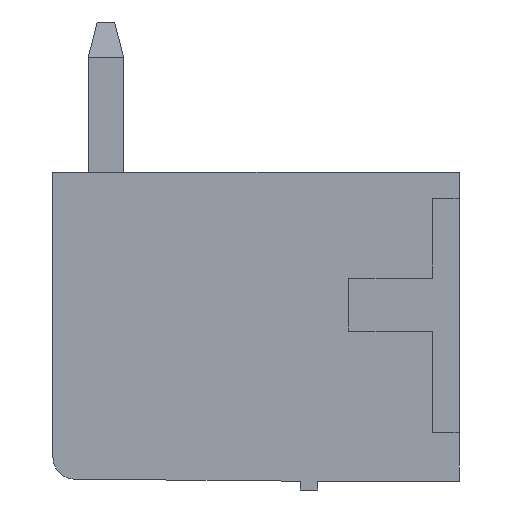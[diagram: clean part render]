
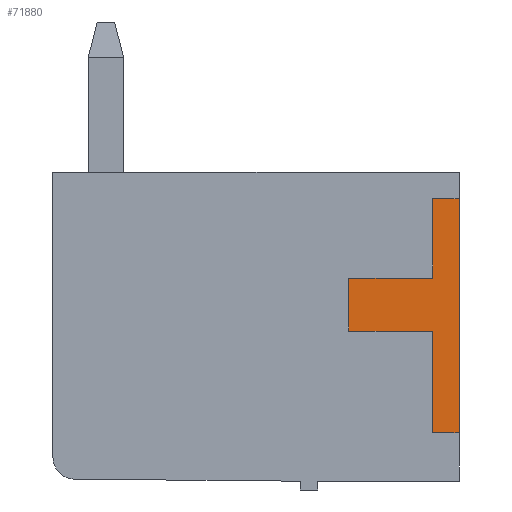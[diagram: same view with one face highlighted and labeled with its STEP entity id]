
A CAD part, left-side view. The second image highlights one B-rep face of the part: STEP entity #71880.
In plain terms, the highlighted planar face has unit normal (-1, 0, 0).
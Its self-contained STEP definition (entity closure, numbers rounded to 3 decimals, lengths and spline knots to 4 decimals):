
#128 = PLANE('',#129);
#129 = AXIS2_PLACEMENT_3D('',#130,#131,#132);
#130 = CARTESIAN_POINT('',(0.,0.,7.));
#131 = DIRECTION('',(0.,-1.,0.));
#132 = DIRECTION('',(0.,0.,-1.));
#1137 = VERTEX_POINT('',#1138);
#1138 = CARTESIAN_POINT('',(-0.2,0.,1.1));
#1152 = PLANE('',#1153);
#1153 = AXIS2_PLACEMENT_3D('',#1154,#1155,#1156);
#1154 = CARTESIAN_POINT('',(0.,0.6,1.1));
#1155 = DIRECTION('',(0.,0.,-1.));
#1156 = DIRECTION('',(0.,-1.,0.));
#1164 = EDGE_CURVE('',#1137,#1165,#1167,.T.);
#1165 = VERTEX_POINT('',#1166);
#1166 = CARTESIAN_POINT('',(-0.2,0.,6.4));
#1167 = SURFACE_CURVE('',#1168,(#1172,#1179),.PCURVE_S1.);
#1168 = LINE('',#1169,#1170);
#1169 = CARTESIAN_POINT('',(-0.2,0.,1.1));
#1170 = VECTOR('',#1171,1.);
#1171 = DIRECTION('',(0.,0.,1.));
#1172 = PCURVE('',#128,#1173);
#1173 = DEFINITIONAL_REPRESENTATION('',(#1174),#1178);
#1174 = LINE('',#1175,#1176);
#1175 = CARTESIAN_POINT('',(5.9,-0.2));
#1176 = VECTOR('',#1177,1.);
#1177 = DIRECTION('',(-1.,0.));
#1178 = ( GEOMETRIC_REPRESENTATION_CONTEXT(2) 
PARAMETRIC_REPRESENTATION_CONTEXT() REPRESENTATION_CONTEXT('2D SPACE',''
  ) );
#1179 = PCURVE('',#1180,#1185);
#1180 = PLANE('',#1181);
#1181 = AXIS2_PLACEMENT_3D('',#1182,#1183,#1184);
#1182 = CARTESIAN_POINT('',(-0.2,0.,0.));
#1183 = DIRECTION('',(-1.,0.,0.));
#1184 = DIRECTION('',(0.,0.,1.));
#1185 = DEFINITIONAL_REPRESENTATION('',(#1186),#1190);
#1186 = LINE('',#1187,#1188);
#1187 = CARTESIAN_POINT('',(1.1,0.));
#1188 = VECTOR('',#1189,1.);
#1189 = DIRECTION('',(1.,0.));
#1190 = ( GEOMETRIC_REPRESENTATION_CONTEXT(2) 
PARAMETRIC_REPRESENTATION_CONTEXT() REPRESENTATION_CONTEXT('2D SPACE',''
  ) );
#1208 = PLANE('',#1209);
#1209 = AXIS2_PLACEMENT_3D('',#1210,#1211,#1212);
#1210 = CARTESIAN_POINT('',(0.,0.,6.4));
#1211 = DIRECTION('',(0.,0.,1.));
#1212 = DIRECTION('',(0.,1.,0.));
#19921 = PLANE('',#19922);
#19922 = AXIS2_PLACEMENT_3D('',#19923,#19924,#19925);
#19923 = CARTESIAN_POINT('',(0.,0.6,6.4));
#19924 = DIRECTION('',(0.,1.,0.));
#19925 = DIRECTION('',(0.,0.,-1.));
#19949 = PLANE('',#19950);
#19950 = AXIS2_PLACEMENT_3D('',#19951,#19952,#19953);
#19951 = CARTESIAN_POINT('',(0.,0.6,4.6));
#19952 = DIRECTION('',(0.,0.,1.));
#19953 = DIRECTION('',(0.,1.,0.));
#19977 = PLANE('',#19978);
#19978 = AXIS2_PLACEMENT_3D('',#19979,#19980,#19981);
#19979 = CARTESIAN_POINT('',(0.,2.5,4.6));
#19980 = DIRECTION('',(0.,1.,0.));
#19981 = DIRECTION('',(0.,0.,-1.));
#20005 = PLANE('',#20006);
#20006 = AXIS2_PLACEMENT_3D('',#20007,#20008,#20009);
#20007 = CARTESIAN_POINT('',(0.,2.5,3.4));
#20008 = DIRECTION('',(0.,0.,-1.));
#20009 = DIRECTION('',(0.,-1.,0.));
#20033 = PLANE('',#20034);
#20034 = AXIS2_PLACEMENT_3D('',#20035,#20036,#20037);
#20035 = CARTESIAN_POINT('',(0.,0.6,3.4));
#20036 = DIRECTION('',(0.,1.,0.));
#20037 = DIRECTION('',(0.,0.,-1.));
#71837 = EDGE_CURVE('',#1165,#71838,#71840,.T.);
#71838 = VERTEX_POINT('',#71839);
#71839 = CARTESIAN_POINT('',(-0.2,0.6,6.4));
#71840 = SURFACE_CURVE('',#71841,(#71845,#71852),.PCURVE_S1.);
#71841 = LINE('',#71842,#71843);
#71842 = CARTESIAN_POINT('',(-0.2,0.,6.4));
#71843 = VECTOR('',#71844,1.);
#71844 = DIRECTION('',(0.,1.,0.));
#71845 = PCURVE('',#1208,#71846);
#71846 = DEFINITIONAL_REPRESENTATION('',(#71847),#71851);
#71847 = LINE('',#71848,#71849);
#71848 = CARTESIAN_POINT('',(0.,0.2));
#71849 = VECTOR('',#71850,1.);
#71850 = DIRECTION('',(1.,0.));
#71851 = ( GEOMETRIC_REPRESENTATION_CONTEXT(2) 
PARAMETRIC_REPRESENTATION_CONTEXT() REPRESENTATION_CONTEXT('2D SPACE',''
  ) );
#71852 = PCURVE('',#1180,#71853);
#71853 = DEFINITIONAL_REPRESENTATION('',(#71854),#71858);
#71854 = LINE('',#71855,#71856);
#71855 = CARTESIAN_POINT('',(6.4,0.));
#71856 = VECTOR('',#71857,1.);
#71857 = DIRECTION('',(0.,1.));
#71858 = ( GEOMETRIC_REPRESENTATION_CONTEXT(2) 
PARAMETRIC_REPRESENTATION_CONTEXT() REPRESENTATION_CONTEXT('2D SPACE',''
  ) );
#71880 = ADVANCED_FACE('',(#71881),#1180,.T.);
#71881 = FACE_BOUND('',#71882,.F.);
#71882 = EDGE_LOOP('',(#71883,#71884,#71885,#71908,#71931,#71954,#71977,
    #72000));
#71883 = ORIENTED_EDGE('',*,*,#71837,.F.);
#71884 = ORIENTED_EDGE('',*,*,#1164,.F.);
#71885 = ORIENTED_EDGE('',*,*,#71886,.F.);
#71886 = EDGE_CURVE('',#71887,#1137,#71889,.T.);
#71887 = VERTEX_POINT('',#71888);
#71888 = CARTESIAN_POINT('',(-0.2,0.6,1.1));
#71889 = SURFACE_CURVE('',#71890,(#71894,#71901),.PCURVE_S1.);
#71890 = LINE('',#71891,#71892);
#71891 = CARTESIAN_POINT('',(-0.2,0.6,1.1));
#71892 = VECTOR('',#71893,1.);
#71893 = DIRECTION('',(0.,-1.,0.));
#71894 = PCURVE('',#1180,#71895);
#71895 = DEFINITIONAL_REPRESENTATION('',(#71896),#71900);
#71896 = LINE('',#71897,#71898);
#71897 = CARTESIAN_POINT('',(1.1,0.6));
#71898 = VECTOR('',#71899,1.);
#71899 = DIRECTION('',(0.,-1.));
#71900 = ( GEOMETRIC_REPRESENTATION_CONTEXT(2) 
PARAMETRIC_REPRESENTATION_CONTEXT() REPRESENTATION_CONTEXT('2D SPACE',''
  ) );
#71901 = PCURVE('',#1152,#71902);
#71902 = DEFINITIONAL_REPRESENTATION('',(#71903),#71907);
#71903 = LINE('',#71904,#71905);
#71904 = CARTESIAN_POINT('',(0.,0.2));
#71905 = VECTOR('',#71906,1.);
#71906 = DIRECTION('',(1.,0.));
#71907 = ( GEOMETRIC_REPRESENTATION_CONTEXT(2) 
PARAMETRIC_REPRESENTATION_CONTEXT() REPRESENTATION_CONTEXT('2D SPACE',''
  ) );
#71908 = ORIENTED_EDGE('',*,*,#71909,.F.);
#71909 = EDGE_CURVE('',#71910,#71887,#71912,.T.);
#71910 = VERTEX_POINT('',#71911);
#71911 = CARTESIAN_POINT('',(-0.2,0.6,3.4));
#71912 = SURFACE_CURVE('',#71913,(#71917,#71924),.PCURVE_S1.);
#71913 = LINE('',#71914,#71915);
#71914 = CARTESIAN_POINT('',(-0.2,0.6,3.4));
#71915 = VECTOR('',#71916,1.);
#71916 = DIRECTION('',(0.,0.,-1.));
#71917 = PCURVE('',#1180,#71918);
#71918 = DEFINITIONAL_REPRESENTATION('',(#71919),#71923);
#71919 = LINE('',#71920,#71921);
#71920 = CARTESIAN_POINT('',(3.4,0.6));
#71921 = VECTOR('',#71922,1.);
#71922 = DIRECTION('',(-1.,0.));
#71923 = ( GEOMETRIC_REPRESENTATION_CONTEXT(2) 
PARAMETRIC_REPRESENTATION_CONTEXT() REPRESENTATION_CONTEXT('2D SPACE',''
  ) );
#71924 = PCURVE('',#20033,#71925);
#71925 = DEFINITIONAL_REPRESENTATION('',(#71926),#71930);
#71926 = LINE('',#71927,#71928);
#71927 = CARTESIAN_POINT('',(0.,0.2));
#71928 = VECTOR('',#71929,1.);
#71929 = DIRECTION('',(1.,0.));
#71930 = ( GEOMETRIC_REPRESENTATION_CONTEXT(2) 
PARAMETRIC_REPRESENTATION_CONTEXT() REPRESENTATION_CONTEXT('2D SPACE',''
  ) );
#71931 = ORIENTED_EDGE('',*,*,#71932,.F.);
#71932 = EDGE_CURVE('',#71933,#71910,#71935,.T.);
#71933 = VERTEX_POINT('',#71934);
#71934 = CARTESIAN_POINT('',(-0.2,2.5,3.4));
#71935 = SURFACE_CURVE('',#71936,(#71940,#71947),.PCURVE_S1.);
#71936 = LINE('',#71937,#71938);
#71937 = CARTESIAN_POINT('',(-0.2,2.5,3.4));
#71938 = VECTOR('',#71939,1.);
#71939 = DIRECTION('',(0.,-1.,0.));
#71940 = PCURVE('',#1180,#71941);
#71941 = DEFINITIONAL_REPRESENTATION('',(#71942),#71946);
#71942 = LINE('',#71943,#71944);
#71943 = CARTESIAN_POINT('',(3.4,2.5));
#71944 = VECTOR('',#71945,1.);
#71945 = DIRECTION('',(0.,-1.));
#71946 = ( GEOMETRIC_REPRESENTATION_CONTEXT(2) 
PARAMETRIC_REPRESENTATION_CONTEXT() REPRESENTATION_CONTEXT('2D SPACE',''
  ) );
#71947 = PCURVE('',#20005,#71948);
#71948 = DEFINITIONAL_REPRESENTATION('',(#71949),#71953);
#71949 = LINE('',#71950,#71951);
#71950 = CARTESIAN_POINT('',(0.,0.2));
#71951 = VECTOR('',#71952,1.);
#71952 = DIRECTION('',(1.,0.));
#71953 = ( GEOMETRIC_REPRESENTATION_CONTEXT(2) 
PARAMETRIC_REPRESENTATION_CONTEXT() REPRESENTATION_CONTEXT('2D SPACE',''
  ) );
#71954 = ORIENTED_EDGE('',*,*,#71955,.F.);
#71955 = EDGE_CURVE('',#71956,#71933,#71958,.T.);
#71956 = VERTEX_POINT('',#71957);
#71957 = CARTESIAN_POINT('',(-0.2,2.5,4.6));
#71958 = SURFACE_CURVE('',#71959,(#71963,#71970),.PCURVE_S1.);
#71959 = LINE('',#71960,#71961);
#71960 = CARTESIAN_POINT('',(-0.2,2.5,4.6));
#71961 = VECTOR('',#71962,1.);
#71962 = DIRECTION('',(0.,0.,-1.));
#71963 = PCURVE('',#1180,#71964);
#71964 = DEFINITIONAL_REPRESENTATION('',(#71965),#71969);
#71965 = LINE('',#71966,#71967);
#71966 = CARTESIAN_POINT('',(4.6,2.5));
#71967 = VECTOR('',#71968,1.);
#71968 = DIRECTION('',(-1.,0.));
#71969 = ( GEOMETRIC_REPRESENTATION_CONTEXT(2) 
PARAMETRIC_REPRESENTATION_CONTEXT() REPRESENTATION_CONTEXT('2D SPACE',''
  ) );
#71970 = PCURVE('',#19977,#71971);
#71971 = DEFINITIONAL_REPRESENTATION('',(#71972),#71976);
#71972 = LINE('',#71973,#71974);
#71973 = CARTESIAN_POINT('',(0.,0.2));
#71974 = VECTOR('',#71975,1.);
#71975 = DIRECTION('',(1.,0.));
#71976 = ( GEOMETRIC_REPRESENTATION_CONTEXT(2) 
PARAMETRIC_REPRESENTATION_CONTEXT() REPRESENTATION_CONTEXT('2D SPACE',''
  ) );
#71977 = ORIENTED_EDGE('',*,*,#71978,.F.);
#71978 = EDGE_CURVE('',#71979,#71956,#71981,.T.);
#71979 = VERTEX_POINT('',#71980);
#71980 = CARTESIAN_POINT('',(-0.2,0.6,4.6));
#71981 = SURFACE_CURVE('',#71982,(#71986,#71993),.PCURVE_S1.);
#71982 = LINE('',#71983,#71984);
#71983 = CARTESIAN_POINT('',(-0.2,0.6,4.6));
#71984 = VECTOR('',#71985,1.);
#71985 = DIRECTION('',(0.,1.,0.));
#71986 = PCURVE('',#1180,#71987);
#71987 = DEFINITIONAL_REPRESENTATION('',(#71988),#71992);
#71988 = LINE('',#71989,#71990);
#71989 = CARTESIAN_POINT('',(4.6,0.6));
#71990 = VECTOR('',#71991,1.);
#71991 = DIRECTION('',(0.,1.));
#71992 = ( GEOMETRIC_REPRESENTATION_CONTEXT(2) 
PARAMETRIC_REPRESENTATION_CONTEXT() REPRESENTATION_CONTEXT('2D SPACE',''
  ) );
#71993 = PCURVE('',#19949,#71994);
#71994 = DEFINITIONAL_REPRESENTATION('',(#71995),#71999);
#71995 = LINE('',#71996,#71997);
#71996 = CARTESIAN_POINT('',(0.,0.2));
#71997 = VECTOR('',#71998,1.);
#71998 = DIRECTION('',(1.,0.));
#71999 = ( GEOMETRIC_REPRESENTATION_CONTEXT(2) 
PARAMETRIC_REPRESENTATION_CONTEXT() REPRESENTATION_CONTEXT('2D SPACE',''
  ) );
#72000 = ORIENTED_EDGE('',*,*,#72001,.F.);
#72001 = EDGE_CURVE('',#71838,#71979,#72002,.T.);
#72002 = SURFACE_CURVE('',#72003,(#72007,#72014),.PCURVE_S1.);
#72003 = LINE('',#72004,#72005);
#72004 = CARTESIAN_POINT('',(-0.2,0.6,6.4));
#72005 = VECTOR('',#72006,1.);
#72006 = DIRECTION('',(0.,0.,-1.));
#72007 = PCURVE('',#1180,#72008);
#72008 = DEFINITIONAL_REPRESENTATION('',(#72009),#72013);
#72009 = LINE('',#72010,#72011);
#72010 = CARTESIAN_POINT('',(6.4,0.6));
#72011 = VECTOR('',#72012,1.);
#72012 = DIRECTION('',(-1.,0.));
#72013 = ( GEOMETRIC_REPRESENTATION_CONTEXT(2) 
PARAMETRIC_REPRESENTATION_CONTEXT() REPRESENTATION_CONTEXT('2D SPACE',''
  ) );
#72014 = PCURVE('',#19921,#72015);
#72015 = DEFINITIONAL_REPRESENTATION('',(#72016),#72020);
#72016 = LINE('',#72017,#72018);
#72017 = CARTESIAN_POINT('',(0.,0.2));
#72018 = VECTOR('',#72019,1.);
#72019 = DIRECTION('',(1.,0.));
#72020 = ( GEOMETRIC_REPRESENTATION_CONTEXT(2) 
PARAMETRIC_REPRESENTATION_CONTEXT() REPRESENTATION_CONTEXT('2D SPACE',''
  ) );
